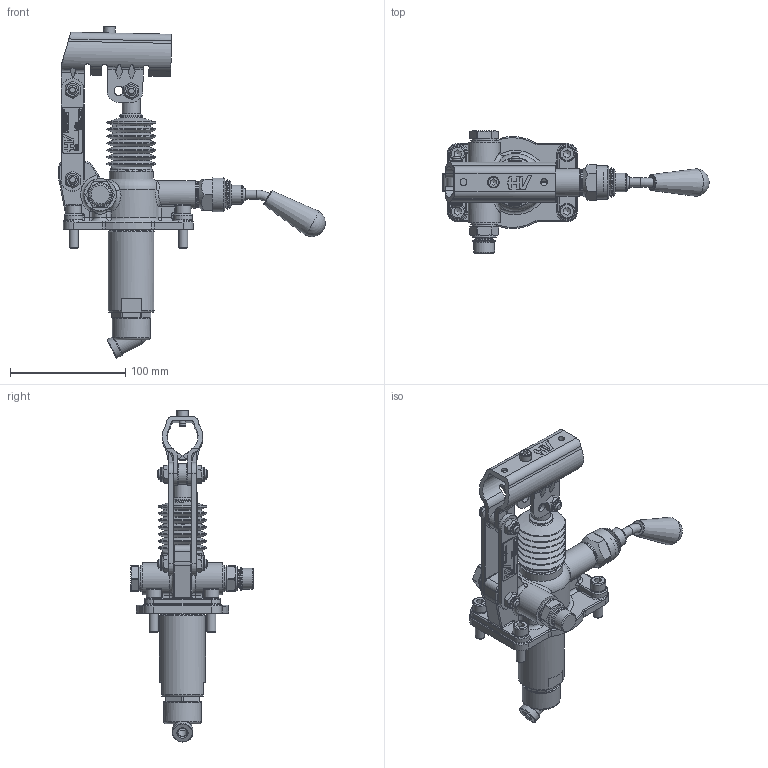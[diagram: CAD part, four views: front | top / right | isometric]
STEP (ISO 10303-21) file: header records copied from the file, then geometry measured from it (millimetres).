
FILE_DESCRIPTION((''),'2;1');
FILE_NAME('G:\HV_HYDRAULIC\AZIENDA_HV_HYDRAULIC\ARCHIVIO_DISEGNI\5_PRODOTTI_FINITI\1_POMPE_MANUALI\6052_PM_45\6052.0140_PM_45_mna-s_(HV)\6052.0140.stp','2024-02-28T14:24:15',('christian.scardovi'),(''),'Autodesk Inventor 2013','Autodesk Inventor 2013','');
FILE_SCHEMA(('AUTOMOTIVE_DESIGN { 1 0 10303 214 1 1 1 1 }'));
Length unit declared in the file: millimetre
Products named in the file (1): 6052.0140
Bounding box: 231.43 x 106.5 x 288.31 mm (x, y, z)
Volume: 444333.5 mm3; surface area: 136461.3 mm2
Topology: 3 solids, 3 shells, 1478 faces, 3687 edges, 2323 vertices
Faces by surface type: plane 708, cylinder 309, bspline 190, cone 148, torus 107, sphere 16
Full cylindrical faces by diameter (mm): 3 x2, 5 x5, 5.5 x1, 6 x4, 6.5 x2, 8 x17, 9 x2, 9.2 x1, 10 x6, 10.376 x1, 11.05 x6, 12 x5, 13 x4, 13.2 x1, 13.468 x1, 14 x4, 14.95 x2, 15 x3, 15.5 x1, 16 x4, 16.468 x1, 16.6 x1, 18 x4, 19.7 x1, 20 x3, 21 x3, 21.6 x1, 22 x3, 23 x3, 24 x4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
Entity records: 45769 total; most frequent: CARTESIAN_POINT 11724, ORIENTED_EDGE 6674, DIRECTION 6237, EDGE_CURVE 3337, VERTEX_POINT 2249, AXIS2_PLACEMENT_3D 2216, EDGE_LOOP 1892, VECTOR 1805
